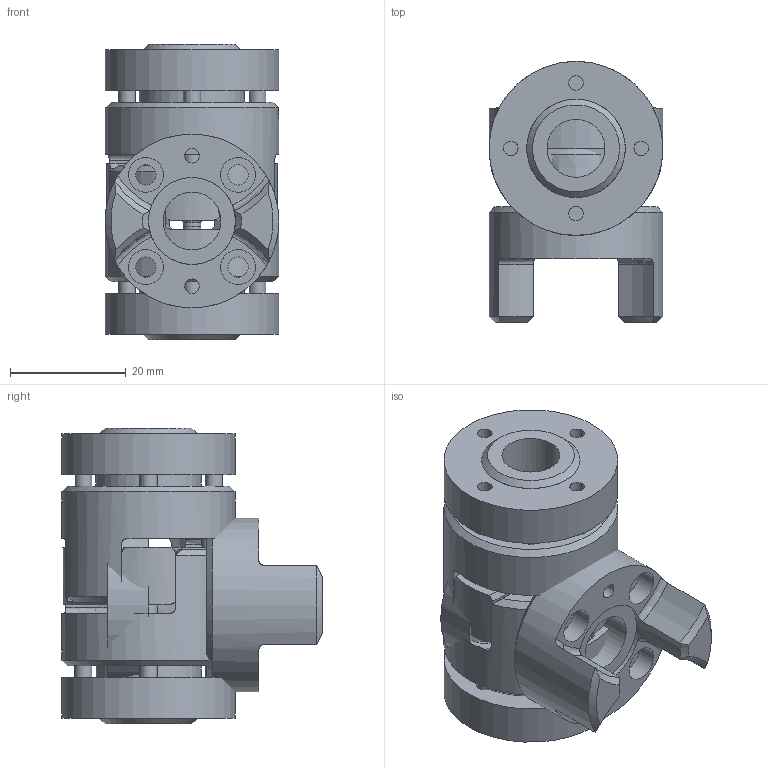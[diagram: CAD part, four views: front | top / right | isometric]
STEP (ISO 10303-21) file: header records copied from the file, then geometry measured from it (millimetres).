
FILE_DESCRIPTION( ( 'Unknown' ), '1' );
FILE_NAME( 'C:/Dokumente und Einstellungen/Sven/Desktop/homepage/cad - homepage/KBE3/KBE3 - 14.stp', 'Unknown', ( 'Unknown' ), ( 'Unknown' ), 'XStep 1.0', 'Unknown', ' ' );
FILE_SCHEMA( ( 'automotive_design' ) );
Length unit declared in the file: millimetre
Products named in the file (5): Assem1; Zahnkranz_14_Standard; KBE 3 - 14_Nabe; KBE3-14_Klemmring; ISO EN DIN 4762_M3x12
Bounding box: 30 x 45 x 51 mm (x, y, z)
Volume: 41843.4 mm3; surface area: 25774.1 mm2
Topology: 17 solids, 17 shells, 477 faces, 995 edges, 615 vertices
Faces by surface type: plane 163, cylinder 149, cone 135, torus 30
Full cylindrical faces by diameter (mm): 2.5 x18, 2.98 x9, 3 x26, 3.5 x12, 5 x9, 6 x12, 10 x7, 15 x3, 18.225 x3, 30 x6
Entity records: 3970 total; most frequent: CARTESIAN_POINT 801, DIRECTION 610, ORIENTED_EDGE 476, AXIS2_PLACEMENT_3D 287, EDGE_CURVE 238, EDGE_LOOP 202, VERTEX_POINT 174, FACE_OUTER_BOUND 156
